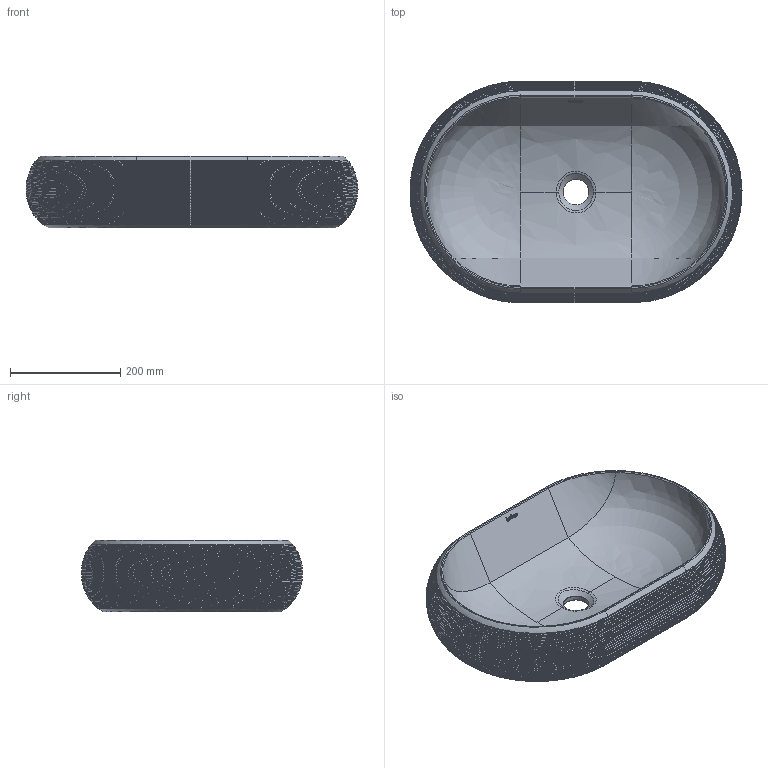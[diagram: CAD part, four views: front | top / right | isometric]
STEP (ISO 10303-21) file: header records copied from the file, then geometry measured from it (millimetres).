
FILE_DESCRIPTION(/* description */ (''),/* implementation_level */ '2;1');
FILE_NAME(/* name */ '00612_~2',/* time_stamp */ '2023-11-15T11:51:03+01:00',/* author */ (''),/* organization */ (''),/* preprocessor_version */ 'ST-DEVELOPER v16.5',/* originating_system */ '',/* authorisation */ '');
FILE_SCHEMA (('CONFIG_CONTROL_DESIGN'));
Length unit declared in the file: millimetre
Products named in the file (1): Document
Bounding box: 601.11 x 401.14 x 130 mm (x, y, z)
Volume: 8777115.6 mm3; surface area: 727587.2 mm2
Topology: 7 solids, 7 shells, 507 faces, 1049 edges, 550 vertices
Faces by surface type: bspline 332, cylinder 131, plane 44
Full cylindrical faces by diameter (mm): 46 x1
Entity records: 116846 total; most frequent: CARTESIAN_POINT 109705, ORIENTED_EDGE 2090, EDGE_CURVE 1045, B_SPLINE_CURVE_WITH_KNOTS 983, VERTEX_POINT 550, EDGE_LOOP 513, ADVANCED_FACE 507, FACE_OUTER_BOUND 507
